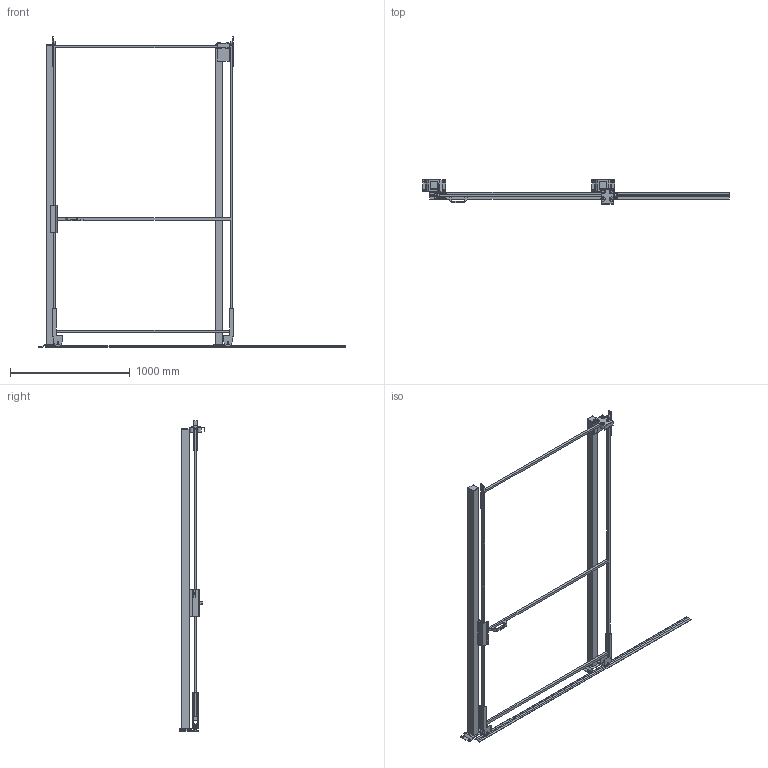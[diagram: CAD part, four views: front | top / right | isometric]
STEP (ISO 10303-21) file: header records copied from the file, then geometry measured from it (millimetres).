
FILE_DESCRIPTION(/* description */ (''),/* implementation_level */ '2;1');
FILE_NAME(/* name */ 'C:\SafeGuarding\ELABORATI\Drawing5_2025-05-13-10-05-38.stp',/* time_stamp */ '2025-05-13T10:05:40+02:00',/* author */ ('admin'),/* organization */ (''),/* preprocessor_version */ 'ST-DEVELOPER v18.1',/* originating_system */ 'AutoCAD Mechanical',/* authorisation */ '');
FILE_SCHEMA (('AUTOMOTIVE_DESIGN { 1 0 10303 214 3 1 1 }'));
Length unit declared in the file: millimetre
Products named in the file (3): Product; VFPA.REPE2015002400; P_VFMA.V260SDU.2520
Assembly tree (3 placements, depth 2):
  Product
    VFPA.REPE2015002400
    P_VFMA.V260SDU.2520  x2
Bounding box: 2561.01 x 210.01 x 2590 mm (x, y, z)
Volume: 24056482.1 mm3; surface area: 3105044.1 mm2
Topology: 29 solids, 40 shells, 321 faces, 1059 edges, 1015 vertices
Faces by surface type: plane 275, cylinder 40, cone 4, sphere 2
Full cylindrical faces by diameter (mm): 9 x4, 11 x8, 13 x4, 18 x4, 30 x2, 36 x4, 58 x4
Entity records: 10793 total; most frequent: CARTESIAN_POINT 2343, DIRECTION 1639, ORIENTED_EDGE 1478, EDGE_CURVE 788, LINE 741, VECTOR 741, VERTEX_POINT 566, AXIS2_PLACEMENT_3D 449
